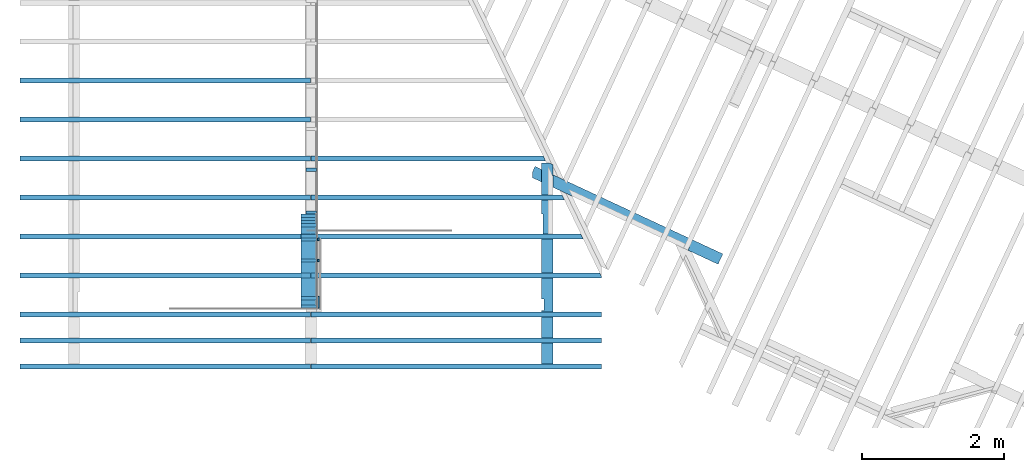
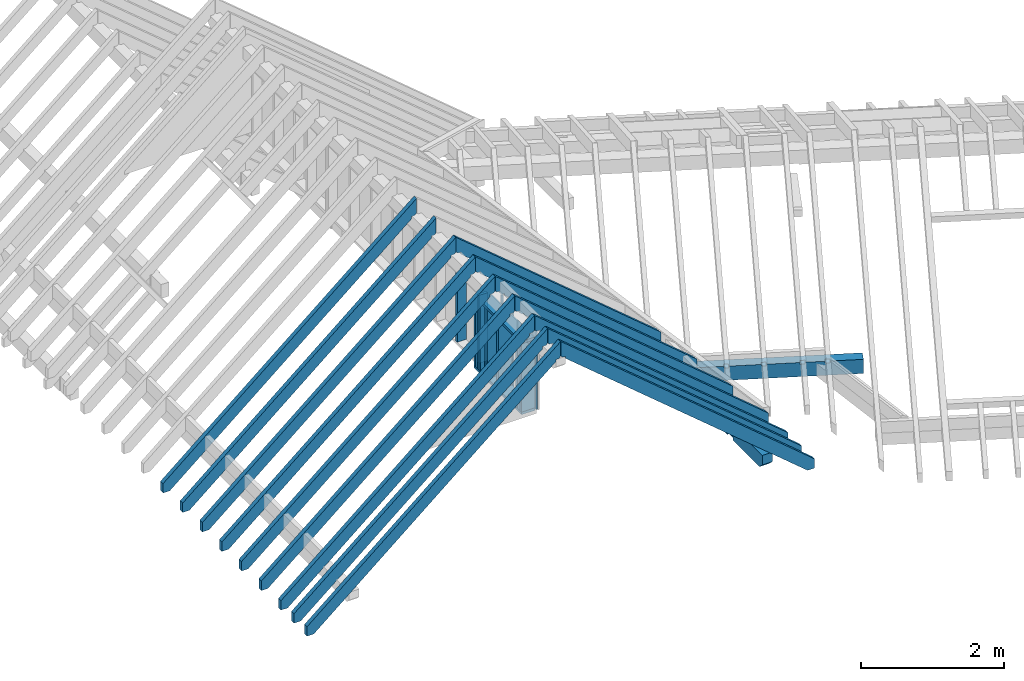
# One storey, part 1 of 11: 35 members.
"""IFC2X3 building model written with IfcOpenShell, lengths in metres."""

from ifc_helpers import new_model, si_unit, direction, frame, origin_with_axes, place, context, subcontext, project, spatial, faceted_brep, material, element, save


model = new_model("IFC2X3")

# Units and contexts
model_context = context("Model", 3, precision=1e-06, world=origin_with_axes(), true_north=direction((0.0, 1.0, 0.0)))
body_context = subcontext(model_context, "Body", "Model", "MODEL_VIEW")
ifc_project = project(units=[si_unit("LENGTHUNIT", "METRE"), si_unit("AREAUNIT", "SQUARE_METRE"), si_unit("VOLUMEUNIT", "CUBIC_METRE"), si_unit("PLANEANGLEUNIT", "RADIAN")], contexts=[model_context])

# Site, building, storey
site_placement = place(None, origin_with_axes())
site = spatial("IfcSite", under=ifc_project, at=site_placement, CompositionType="ELEMENT")
building_placement = place(site_placement, origin_with_axes())
building = spatial("IfcBuilding", under=site, at=building_placement, Name="Building 1", CompositionType="ELEMENT")
storey_placement = place(building_placement, origin_with_axes())
storey = spatial("IfcBuildingStorey", under=building, at=storey_placement, Name="Comble et couverture", CompositionType="ELEMENT", Elevation=0.0)

# Members
ifc_material_1 = material(Name="Epicéa C24")
member_1_placement = place(storey_placement, frame((3.326, 0.012, 6.8079713), z_axis=(-1.0, 0.0, 0.0), x_axis=(0.0, 1.0, 0.0)))
element("IfcMember", 1, at=member_1_placement, inside=storey, material=ifc_material_1, Name="Montant", context=body_context, shape_type="Brep", body=[
    faceted_brep([(1.3208281, -0.0225, -0.11), (0.0, -0.0225, -0.11), (0.0, 0.0225, -0.11), (1.3208281, 0.0225, -0.11), (1.3208281, 0.0225, 0.11), (1.3208281, -0.0225, 0.11), (0.0, -0.0225, 0.11), (0.0, 0.0225, 0.11)], [[[0, 1, 2, 3]], [[3, 4, 5, 0]], [[6, 1, 0, 5]], [[2, 7, 4, 3]], [[7, 6, 5, 4]], [[2, 1, 6, 7]]]),
])
ifc_material_2 = material(Name="NH II")
member_2_placement = place(storey_placement, frame((3.4131263, -0.8118749, 7.2275995), z_axis=(-0.6427876, 0.0, 0.7660444), x_axis=(-0.7660444, 0.0, -0.6427876)))
element("IfcMember", 2, at=member_2_placement, inside=storey, material=ifc_material_2, Name="Chevron", context=body_context, shape_type="Brep", body=[
    faceted_brep([(5.4354375, -0.035, -0.0265671), (5.4354375, 0.035, -0.0265671), (5.3325915, 0.035, 0.096), (5.3325915, -0.035, 0.096), (5.3526906, 0.035, -0.096), (0.2622762, 0.035, -0.096), (0.2397786, 0.035, -0.0691884), (0.2078259, 0.035, -0.096), (0.1611071, 0.035, -0.096), (0.0, 0.035, 0.096), (5.3526906, -0.035, -0.096), (0.2622762, -0.035, -0.096), (0.0, -0.035, 0.096), (0.1611071, -0.035, -0.096), (0.2078259, -0.035, -0.096), (0.2397786, -0.035, -0.0691884)], [[[0, 1, 2, 3]], [[2, 1, 4, 5, 6, 7, 8, 9]], [[1, 0, 10, 4]], [[4, 10, 11, 5]], [[0, 3, 12, 13, 14, 15, 11, 10]], [[3, 2, 9, 12]], [[7, 6, 15, 14]], [[6, 5, 11, 15]], [[7, 14, 13, 8]], [[13, 12, 9, 8]]]),
])
member_3_placement = place(storey_placement, frame((3.326, 1.3103281, 6.7854713), z_axis=(-1.0, 0.0, 0.0), x_axis=(0.0, 0.0, -1.0)))
element("IfcMember", 3, at=member_3_placement, inside=storey, material=ifc_material_1, Name="Montant", context=body_context, shape_type="Brep", body=[
    faceted_brep([(1.16, -0.0225, -0.11), (1.16, -0.0225, 0.11), (0.0, -0.0225, 0.11), (0.0, -0.0225, -0.11), (1.16, 0.0225, 0.11), (0.0, 0.0225, 0.11), (1.16, 0.0225, -0.11), (0.0, 0.0225, -0.11)], [[[0, 1, 2, 3]], [[1, 4, 5, 2]], [[4, 6, 7, 5]], [[6, 0, 3, 7]], [[0, 6, 4, 1]], [[2, 5, 7, 3]]]),
])
member_4_placement = place(storey_placement, frame((3.461, 0.0945, 6.9523725), z_axis=(1.0, 0.0, 0.0), x_axis=(0.0, 0.0, -1.0)))
element("IfcMember", 4, at=member_4_placement, inside=storey, material=ifc_material_1, Name="latte 27/40", context=body_context, shape_type="Brep", body=[
    faceted_brep([(1.3669012, 0.0825, -0.012), (1.3669012, 0.0825, 0.012), (1.3669012, -0.0825, 0.012), (1.3669012, -0.0825, -0.012), (0.0, 0.0825, 0.012), (0.0, 0.0825, -0.012), (0.0, -0.0825, -0.012), (0.0, -0.0825, 0.012)], [[[0, 1, 2, 3]], [[4, 5, 6, 7]], [[3, 6, 5, 0]], [[2, 7, 6, 3]], [[1, 4, 7, 2]], [[0, 5, 4, 1]]]),
])
member_5_placement = place(storey_placement, frame((3.294711, -0.082, 7.2275995), z_axis=(0.6427876, 0.0, 0.7660444), x_axis=(0.7660444, 0.0, -0.6427876)))
element("IfcMember", 5, at=member_5_placement, inside=storey, material=ifc_material_2, Name="Chevron", context=body_context, shape_type="Brep", body=[
    faceted_brep([(5.4354751, 0.035, -0.0266108), (5.4354751, -0.035, -0.0266108), (5.3527803, -0.035, -0.096), (5.3527803, 0.035, -0.096), (5.3325915, -0.035, 0.096), (0.0, -0.035, 0.096), (0.1611071, -0.035, -0.096), (0.2078259, -0.035, -0.096), (0.2397786, -0.035, -0.0691884), (0.2622762, -0.035, -0.096), (5.3325915, 0.035, 0.096), (0.2622762, 0.035, -0.096), (0.2397786, 0.035, -0.0691884), (0.2078259, 0.035, -0.096), (0.1611071, 0.035, -0.096), (0.0, 0.035, 0.096)], [[[0, 1, 2, 3]], [[2, 1, 4, 5, 6, 7, 8, 9]], [[1, 0, 10, 4]], [[0, 3, 11, 12, 13, 14, 15, 10]], [[3, 2, 9, 11]], [[4, 10, 15, 5]], [[13, 12, 8, 7]], [[12, 11, 9, 8]], [[13, 7, 6, 14]], [[15, 14, 6, 5]]]),
])
member_6_placement = place(storey_placement, frame((3.326, 1.2653281, 6.7854713), z_axis=(-1.0, 0.0, 0.0), x_axis=(0.0, 0.0, -1.0)))
element("IfcMember", 6, at=member_6_placement, inside=storey, material=ifc_material_1, Name="Montant", context=body_context, shape_type="Brep", body=[
    faceted_brep([(1.16, -0.0225, -0.11), (1.16, -0.0225, 0.11), (0.0, -0.0225, 0.11), (0.0, -0.0225, -0.11), (1.16, 0.0225, 0.11), (0.0, 0.0225, 0.11), (1.16, 0.0225, -0.11), (0.0, 0.0225, -0.11)], [[[0, 1, 2, 3]], [[1, 4, 5, 2]], [[4, 6, 7, 5]], [[6, 0, 3, 7]], [[0, 6, 4, 1]], [[2, 5, 7, 3]]]),
])
member_7_placement = place(storey_placement, frame((3.4131263, -0.4469374, 7.2275995), z_axis=(-0.6427876, 0.0, 0.7660444), x_axis=(-0.7660444, 0.0, -0.6427876)))
element("IfcMember", 7, at=member_7_placement, inside=storey, material=ifc_material_2, Name="Chevron", context=body_context, shape_type="Brep", body=[
    faceted_brep([(5.4354375, -0.035, -0.0265671), (5.4354375, 0.035, -0.0265671), (5.3325915, 0.035, 0.096), (5.3325915, -0.035, 0.096), (5.3526906, 0.035, -0.096), (0.2622762, 0.035, -0.096), (0.2397786, 0.035, -0.0691884), (0.2078259, 0.035, -0.096), (0.1611071, 0.035, -0.096), (0.0, 0.035, 0.096), (5.3526906, -0.035, -0.096), (0.2622762, -0.035, -0.096), (0.0, -0.035, 0.096), (0.1611071, -0.035, -0.096), (0.2078259, -0.035, -0.096), (0.2397786, -0.035, -0.0691884)], [[[0, 1, 2, 3]], [[2, 1, 4, 5, 6, 7, 8, 9]], [[1, 0, 10, 4]], [[4, 10, 11, 5]], [[0, 3, 12, 13, 14, 15, 11, 10]], [[3, 2, 9, 12]], [[7, 6, 15, 14]], [[6, 5, 11, 15]], [[7, 14, 13, 8]], [[13, 12, 9, 8]]]),
])
member_8_placement = place(storey_placement, frame((3.294711, 1.5664234, 7.2275995), z_axis=(0.6427876, 0.0, 0.7660444), x_axis=(0.7660444, 0.0, -0.6427876)))
element("IfcMember", 8, at=member_8_placement, inside=storey, material=ifc_material_2, Name="Chevron", context=body_context, shape_type="Brep", body=[
    faceted_brep([(0.2078259, 0.035, -0.096), (0.2397786, 0.035, -0.0691884), (0.2397786, -0.035, -0.0691884), (0.2078259, -0.035, -0.096), (0.2622762, 0.035, -0.096), (0.2622762, -0.035, -0.096), (4.8163657, -0.035, -0.096), (4.6552586, -0.035, 0.096), (0.0, -0.035, 0.096), (0.1611071, -0.035, -0.096), (4.7722193, 0.035, -0.096), (0.1611071, 0.035, -0.096), (4.6111121, 0.035, 0.096), (0.0, 0.035, 0.096)], [[[0, 1, 2, 3]], [[1, 4, 5, 2]], [[3, 2, 5, 6, 7, 8, 9]], [[5, 4, 10, 6]], [[0, 3, 9, 11]], [[10, 12, 7, 6]], [[7, 12, 13, 8]], [[1, 0, 11, 13, 12, 10, 4]], [[8, 13, 11, 9]]]),
])
for number, where, z_axis, x_axis, name in (
    (9, (3.326, 0.6795, 6.7854713), (1.0, 0.0, 0.0), (0.0, 0.0, -1.0), "Montant"),
    (10, (3.326, 0.1495, 6.7854713), (1.0, 0.0, 0.0), (0.0, 0.0, -1.0), "Montant"),
):
    element("IfcMember", number, at=place(storey_placement, frame(where, z_axis=z_axis, x_axis=x_axis)), inside=storey, material=ifc_material_1, Name=name, context=body_context, shape_type="Brep", body=[
        faceted_brep([(1.16, -0.0225, -0.11), (1.16, -0.0225, 0.11), (0.0, -0.0225, 0.11), (0.0, -0.0225, -0.11), (1.16, 0.0225, 0.11), (0.0, 0.0225, 0.11), (1.16, 0.0225, -0.11), (0.0, 0.0225, -0.11)], [[[0, 1, 2, 3]], [[1, 4, 5, 2]], [[4, 6, 7, 5]], [[6, 0, 3, 7]], [[0, 6, 4, 1]], [[2, 5, 7, 3]]]),
    ])
for number, where, z_axis, x_axis, name in (
    (11, (3.294711, -0.8118749, 7.2275995), (0.6427876, 0.0, 0.7660444), (0.7660444, 0.0, -0.6427876), "Chevron"),
    (12, (3.294711, -0.4469374, 7.2275995), (0.6427876, 0.0, 0.7660444), (0.7660444, 0.0, -0.6427876), "Chevron"),
):
    element("IfcMember", number, at=place(storey_placement, frame(where, z_axis=z_axis, x_axis=x_axis)), inside=storey, material=ifc_material_2, Name=name, context=body_context, shape_type="Brep", body=[
        faceted_brep([(5.4354751, 0.035, -0.0266108), (5.4354751, -0.035, -0.0266108), (5.3527803, -0.035, -0.096), (5.3527803, 0.035, -0.096), (5.3325915, -0.035, 0.096), (0.0, -0.035, 0.096), (0.1611071, -0.035, -0.096), (0.2078259, -0.035, -0.096), (0.2397786, -0.035, -0.0691884), (0.2622762, -0.035, -0.096), (5.3325915, 0.035, 0.096), (0.2622762, 0.035, -0.096), (0.2397786, 0.035, -0.0691884), (0.2078259, 0.035, -0.096), (0.1611071, 0.035, -0.096), (0.0, 0.035, 0.096)], [[[0, 1, 2, 3]], [[2, 1, 4, 5, 6, 7, 8, 9]], [[1, 0, 10, 4]], [[0, 3, 11, 12, 13, 14, 15, 10]], [[3, 2, 9, 11]], [[4, 10, 15, 5]], [[13, 12, 8, 7]], [[12, 11, 9, 8]], [[13, 7, 6, 14]], [[15, 14, 6, 5]]]),
    ])
for number, where, z_axis, x_axis, name in (
    (13, (3.4131263, 1.5664234, 7.2275995), (-0.6427876, 0.0, 0.7660444), (-0.7660444, 0.0, -0.6427876), "Chevron"),
    (14, (3.4131263, 0.4684141, 7.2275995), (-0.6427876, 0.0, 0.7660444), (-0.7660444, 0.0, -0.6427876), "Chevron"),
):
    element("IfcMember", number, at=place(storey_placement, frame(where, z_axis=z_axis, x_axis=x_axis)), inside=storey, material=ifc_material_2, Name=name, context=body_context, shape_type="Brep", body=[
        faceted_brep([(5.4354375, -0.035, -0.0265671), (5.4354375, 0.035, -0.0265671), (5.3325915, 0.035, 0.096), (5.3325915, -0.035, 0.096), (5.3526906, 0.035, -0.096), (0.2622762, 0.035, -0.096), (0.2397786, 0.035, -0.0691884), (0.2078259, 0.035, -0.096), (0.1611071, 0.035, -0.096), (0.0, 0.035, 0.096), (5.3526906, -0.035, -0.096), (0.2622762, -0.035, -0.096), (0.0, -0.035, 0.096), (0.1611071, -0.035, -0.096), (0.2078259, -0.035, -0.096), (0.2397786, -0.035, -0.0691884)], [[[0, 1, 2, 3]], [[2, 1, 4, 5, 6, 7, 8, 9]], [[1, 0, 10, 4]], [[4, 10, 11, 5]], [[0, 3, 12, 13, 14, 15, 11, 10]], [[3, 2, 9, 12]], [[7, 6, 15, 14]], [[6, 5, 11, 15]], [[7, 14, 13, 8]], [[13, 12, 9, 8]]]),
    ])
member_9_placement = place(storey_placement, frame((3.461, 0.9758281, 6.9523725), z_axis=(-1.0, 0.0, 0.0), x_axis=(0.0, 0.0, -1.0)))
element("IfcMember", 15, at=member_9_placement, inside=storey, material=ifc_material_1, Name="latte 27/40", context=body_context, shape_type="Brep", body=[
    faceted_brep([(1.3669012, -0.02, -0.012), (1.3669012, 0.02, -0.012), (1.3669012, 0.02, 0.012), (1.3669012, -0.02, 0.012), (0.0, 0.02, 0.012), (0.0, -0.02, 0.012), (0.0, 0.02, -0.012), (0.0, -0.02, -0.012)], [[[0, 1, 2, 3]], [[3, 2, 4, 5]], [[2, 1, 6, 4]], [[1, 0, 7, 6]], [[6, 7, 5, 4]], [[0, 3, 5, 7]]]),
])
member_10_placement = place(storey_placement, frame((3.4131263, 3.2092093, 7.2275995), z_axis=(-0.6427876, 0.0, 0.7660444), x_axis=(-0.7660444, 0.0, -0.6427876)))
element("IfcMember", 16, at=member_10_placement, inside=storey, material=ifc_material_2, Name="Chevron", context=body_context, shape_type="Brep", body=[
    faceted_brep([(5.4354375, -0.035, -0.0265671), (5.4354375, 0.035, -0.0265671), (5.3325915, 0.035, 0.096), (5.3325915, -0.035, 0.096), (5.3526906, 0.035, -0.096), (0.2622762, 0.035, -0.096), (0.2397786, 0.035, -0.0691884), (0.2078259, 0.035, -0.096), (0.1611071, 0.035, -0.096), (0.0, 0.035, 0.096), (5.3526906, -0.035, -0.096), (0.2622762, -0.035, -0.096), (0.0, -0.035, 0.096), (0.1611071, -0.035, -0.096), (0.2078259, -0.035, -0.096), (0.2397786, -0.035, -0.0691884)], [[[0, 1, 2, 3]], [[2, 1, 4, 5, 6, 7, 8, 9]], [[1, 0, 10, 4]], [[4, 10, 11, 5]], [[0, 3, 12, 13, 14, 15, 11, 10]], [[3, 2, 9, 12]], [[7, 6, 15, 14]], [[6, 5, 11, 15]], [[7, 14, 13, 8]], [[13, 12, 9, 8]]]),
])
member_11_placement = place(storey_placement, frame((3.294711, 1.0188281, 7.2275995), z_axis=(0.6427876, 0.0, 0.7660444), x_axis=(0.7660444, 0.0, -0.6427876)))
element("IfcMember", 17, at=member_11_placement, inside=storey, material=ifc_material_2, Name="Chevron", context=body_context, shape_type="Brep", body=[
    faceted_brep([(0.3059901, 0.035, -0.096), (0.3339608, 0.035, -0.0725298), (0.3339608, -0.035, -0.0725298), (0.3059901, -0.035, -0.096), (0.3536547, 0.035, -0.096), (0.3536547, -0.035, -0.096), (5.1617139, -0.035, -0.096), (5.0006068, -0.035, 0.096), (0.0, -0.035, 0.096), (0.1611071, -0.035, -0.096), (0.2078259, -0.035, -0.096), (0.2397786, -0.035, -0.0691884), (0.2622762, -0.035, -0.096), (5.1175675, 0.035, -0.096), (0.2622762, 0.035, -0.096), (0.2078259, 0.035, -0.096), (0.2397786, 0.035, -0.0691884), (0.1611071, 0.035, -0.096), (0.0, 0.035, 0.096), (4.9564604, 0.035, 0.096)], [[[0, 1, 2, 3]], [[1, 4, 5, 2]], [[3, 2, 5, 6, 7, 8, 9, 10, 11, 12]], [[5, 4, 13, 6]], [[0, 3, 12, 14]], [[15, 16, 11, 10]], [[16, 14, 12, 11]], [[15, 10, 9, 17]], [[8, 18, 17, 9]], [[1, 0, 14, 16, 15, 17, 18, 19, 13, 4]], [[18, 8, 7, 19]], [[13, 19, 7, 6]]]),
])
for number, where, z_axis, x_axis, name in (
    (18, (3.3635, 1.3553281, 6.7854713), (1.0, 0.0, 0.0), (0.0, 0.0, -1.0), "Montant"),
    (19, (3.3635, 1.9553281, 6.7854713), (1.0, 0.0, 0.0), (0.0, 0.0, -1.0), "Montant"),
):
    element("IfcMember", number, at=place(storey_placement, frame(where, z_axis=z_axis, x_axis=x_axis)), inside=storey, material=ifc_material_1, Name=name, context=body_context, shape_type="Brep", body=[
        faceted_brep([(1.16, -0.0225, -0.0725), (1.16, 0.0225, -0.0725), (1.16, 0.0225, 0.0725), (1.16, -0.0225, 0.0725), (0.0, 0.0225, -0.0725), (0.0, 0.0225, 0.0725), (0.0, -0.0225, -0.0725), (0.0, -0.0225, 0.0725)], [[[0, 1, 2, 3]], [[2, 1, 4, 5]], [[1, 0, 6, 4]], [[0, 3, 7, 6]], [[3, 2, 5, 7]], [[7, 5, 4, 6]]]),
    ])
member_12_placement = place(storey_placement, frame((3.326, 0.0345, 6.7854713), z_axis=(1.0, 0.0, 0.0), x_axis=(0.0, 0.0, -1.0)))
element("IfcMember", 20, at=member_12_placement, inside=storey, material=ifc_material_1, Name="Montant", context=body_context, shape_type="Brep", body=[
    faceted_brep([(1.16, -0.0225, -0.11), (1.16, -0.0225, 0.11), (0.0, -0.0225, 0.11), (0.0, -0.0225, -0.11), (1.16, 0.0225, 0.11), (0.0, 0.0225, 0.11), (1.16, 0.0225, -0.11), (0.0, 0.0225, -0.11)], [[[0, 1, 2, 3]], [[1, 4, 5, 2]], [[4, 6, 7, 5]], [[6, 0, 3, 7]], [[0, 6, 4, 1]], [[2, 5, 7, 3]]]),
])
member_13_placement = place(storey_placement, frame((3.294711, 0.4684141, 7.2275995), z_axis=(0.6427876, 0.0, 0.7660444), x_axis=(0.7660444, 0.0, -0.6427876)))
element("IfcMember", 21, at=member_13_placement, inside=storey, material=ifc_material_2, Name="Chevron", context=body_context, shape_type="Brep", body=[
    faceted_brep([(0.3059901, 0.035, -0.096), (0.3339608, 0.035, -0.0725298), (0.3339608, -0.035, -0.0725298), (0.3059901, -0.035, -0.096), (0.3536547, 0.035, -0.096), (0.3536547, -0.035, -0.096), (5.3527803, -0.035, -0.096), (5.4354751, -0.035, -0.0266108), (5.3325915, -0.035, 0.096), (0.0, -0.035, 0.096), (0.1611071, -0.035, -0.096), (0.2078259, -0.035, -0.096), (0.2397786, -0.035, -0.0691884), (0.2622762, -0.035, -0.096), (5.3527803, 0.035, -0.096), (0.2622762, 0.035, -0.096), (5.4354751, -0.010993, -0.0266108), (5.4184536, 0.035, -0.0408935), (5.3035863, 0.035, 0.096), (5.3325924, -0.010993, 0.096), (0.2397786, 0.035, -0.0691884), (0.2078259, 0.035, -0.096), (0.1611071, 0.035, -0.096), (0.0, 0.035, 0.096)], [[[0, 1, 2, 3]], [[1, 4, 5, 2]], [[3, 2, 5, 6, 7, 8, 9, 10, 11, 12, 13]], [[5, 4, 14, 6]], [[0, 3, 13, 15]], [[16, 17, 18, 19]], [[1, 0, 15, 20, 21, 22, 23, 18, 17, 14, 4]], [[17, 16, 7, 6, 14]], [[16, 19, 8, 7]], [[19, 18, 23, 9, 8]], [[21, 20, 12, 11]], [[20, 15, 13, 12]], [[21, 11, 10, 22]], [[10, 9, 23, 22]]]),
])
member_14_placement = place(storey_placement, frame((3.4131263, 2.661614, 7.2275995), z_axis=(-0.6427876, 0.0, 0.7660444), x_axis=(-0.7660444, 0.0, -0.6427876)))
element("IfcMember", 22, at=member_14_placement, inside=storey, material=ifc_material_2, Name="Chevron", context=body_context, shape_type="Brep", body=[
    faceted_brep([(5.4354375, -0.035, -0.0265671), (5.4354375, 0.035, -0.0265671), (5.3325915, 0.035, 0.096), (5.3325915, -0.035, 0.096), (5.3526906, 0.035, -0.096), (0.2622762, 0.035, -0.096), (0.2397786, 0.035, -0.0691884), (0.2078259, 0.035, -0.096), (0.1611071, 0.035, -0.096), (0.0, 0.035, 0.096), (5.3526906, -0.035, -0.096), (0.2622762, -0.035, -0.096), (0.0, -0.035, 0.096), (0.1611071, -0.035, -0.096), (0.2078259, -0.035, -0.096), (0.2397786, -0.035, -0.0691884)], [[[0, 1, 2, 3]], [[2, 1, 4, 5, 6, 7, 8, 9]], [[1, 0, 10, 4]], [[4, 10, 11, 5]], [[0, 3, 12, 13, 14, 15, 11, 10]], [[3, 2, 9, 12]], [[7, 6, 15, 14]], [[6, 5, 11, 15]], [[7, 14, 13, 8]], [[13, 12, 9, 8]]]),
])
for number, where, z_axis, x_axis, name in (
    (23, (3.326, 0.9758281, 6.7854713), (-1.0, 0.0, 0.0), (0.0, 0.0, -1.0), "Montant"),
    (24, (3.326, 1.0208281, 6.7854713), (-1.0, 0.0, 0.0), (0.0, 0.0, -1.0), "Montant"),
):
    element("IfcMember", number, at=place(storey_placement, frame(where, z_axis=z_axis, x_axis=x_axis)), inside=storey, material=ifc_material_1, Name=name, context=body_context, shape_type="Brep", body=[
        faceted_brep([(1.16, -0.0225, -0.11), (1.16, -0.0225, 0.11), (0.0, -0.0225, 0.11), (0.0, -0.0225, -0.11), (1.16, 0.0225, 0.11), (0.0, 0.0225, 0.11), (1.16, 0.0225, -0.11), (0.0, 0.0225, -0.11)], [[[0, 1, 2, 3]], [[1, 4, 5, 2]], [[4, 6, 7, 5]], [[6, 0, 3, 7]], [[0, 6, 4, 1]], [[2, 5, 7, 3]]]),
    ])
member_15_placement = place(storey_placement, frame((3.326, 0.012, 5.6029713), z_axis=(-1.0, 0.0, 0.0), x_axis=(0.0, 1.0, 0.0)))
element("IfcMember", 25, at=member_15_placement, inside=storey, material=ifc_material_1, Name="Montant", context=body_context, shape_type="Brep", body=[
    faceted_brep([(1.3208281, -0.0225, -0.11), (0.0, -0.0225, -0.11), (0.0, 0.0225, -0.11), (1.3208281, 0.0225, -0.11), (1.3208281, 0.0225, 0.11), (1.3208281, -0.0225, 0.11), (0.0, -0.0225, 0.11), (0.0, 0.0225, 0.11)], [[[0, 1, 2, 3]], [[3, 4, 5, 0]], [[6, 1, 0, 5]], [[2, 7, 4, 3]], [[7, 6, 5, 4]], [[2, 1, 6, 7]]]),
])
member_16_placement = place(storey_placement, frame((3.461, 0.6795, 6.9523725), z_axis=(1.0, 0.0, 0.0), x_axis=(0.0, 0.0, -1.0)))
element("IfcMember", 26, at=member_16_placement, inside=storey, material=ifc_material_1, Name="latte 27/40", context=body_context, shape_type="Brep", body=[
    faceted_brep([(1.3669012, 0.02, 0.012), (1.3669012, -0.02, 0.012), (1.3669012, -0.02, -0.012), (1.3669012, 0.02, -0.012), (0.0, -0.02, -0.012), (0.0, 0.02, -0.012), (0.0, -0.02, 0.012), (0.0, 0.02, 0.012)], [[[0, 1, 2, 3]], [[3, 2, 4, 5]], [[2, 1, 6, 4]], [[1, 0, 7, 6]], [[0, 3, 5, 7]], [[6, 7, 5, 4]]]),
])
member_17_placement = place(storey_placement, frame((3.326, 0.092, 6.7854713), z_axis=(1.0, 0.0, 0.0), x_axis=(0.0, 0.0, -1.0)))
element("IfcMember", 27, at=member_17_placement, inside=storey, material=ifc_material_1, Name="Montant", context=body_context, shape_type="Brep", body=[
    faceted_brep([(1.16, 0.035, -0.11), (1.16, 0.035, 0.11), (1.16, -0.035, 0.11), (1.16, -0.035, -0.11), (0.0, 0.035, 0.11), (0.0, 0.035, -0.11), (0.0, -0.035, -0.11), (0.0, -0.035, 0.11)], [[[0, 1, 2, 3]], [[4, 5, 6, 7]], [[3, 6, 5, 0]], [[2, 7, 6, 3]], [[1, 4, 7, 2]], [[0, 5, 4, 1]]]),
])
for number, where, z_axis, x_axis, name in (
    (28, (3.4131263, 1.0188281, 7.2275995), (-0.6427876, 0.0, 0.7660444), (-0.7660444, 0.0, -0.6427876), "Chevron"),
    (29, (3.4131263, -0.082, 7.2275995), (-0.6427876, 0.0, 0.7660444), (-0.7660444, 0.0, -0.6427876), "Chevron"),
    (30, (3.4131263, 2.1140187, 7.2275995), (-0.6427876, 0.0, 0.7660444), (-0.7660444, 0.0, -0.6427876), "Chevron"),
):
    element("IfcMember", number, at=place(storey_placement, frame(where, z_axis=z_axis, x_axis=x_axis)), inside=storey, material=ifc_material_2, Name=name, context=body_context, shape_type="Brep", body=[
        faceted_brep([(5.4354375, -0.035, -0.0265671), (5.4354375, 0.035, -0.0265671), (5.3325915, 0.035, 0.096), (5.3325915, -0.035, 0.096), (5.3526906, 0.035, -0.096), (0.2622762, 0.035, -0.096), (0.2397786, 0.035, -0.0691884), (0.2078259, 0.035, -0.096), (0.1611071, 0.035, -0.096), (0.0, 0.035, 0.096), (5.3526906, -0.035, -0.096), (0.2622762, -0.035, -0.096), (0.0, -0.035, 0.096), (0.1611071, -0.035, -0.096), (0.2078259, -0.035, -0.096), (0.2397786, -0.035, -0.0691884)], [[[0, 1, 2, 3]], [[2, 1, 4, 5, 6, 7, 8, 9]], [[1, 0, 10, 4]], [[4, 10, 11, 5]], [[0, 3, 12, 13, 14, 15, 11, 10]], [[3, 2, 9, 12]], [[7, 6, 15, 14]], [[6, 5, 11, 15]], [[7, 14, 13, 8]], [[13, 12, 9, 8]]]),
    ])
member_18_placement = place(storey_placement, frame((3.294711, 2.1140187, 7.2275995), z_axis=(0.6427876, 0.0, 0.7660444), x_axis=(0.7660444, 0.0, -0.6427876)))
element("IfcMember", 31, at=member_18_placement, inside=storey, material=ifc_material_2, Name="Chevron", context=body_context, shape_type="Brep", body=[
    faceted_brep([(0.2078259, 0.035, -0.096), (0.2397786, 0.035, -0.0691884), (0.2397786, -0.035, -0.0691884), (0.2078259, -0.035, -0.096), (0.2622762, 0.035, -0.096), (0.2622762, -0.035, -0.096), (4.4710175, -0.035, -0.096), (4.3099103, -0.035, 0.096), (0.0, -0.035, 0.096), (0.1611071, -0.035, -0.096), (4.426871, 0.035, -0.096), (0.1611071, 0.035, -0.096), (4.2657639, 0.035, 0.096), (0.0, 0.035, 0.096)], [[[0, 1, 2, 3]], [[1, 4, 5, 2]], [[3, 2, 5, 6, 7, 8, 9]], [[5, 4, 10, 6]], [[0, 3, 9, 11]], [[10, 12, 7, 6]], [[7, 12, 13, 8]], [[1, 0, 11, 13, 12, 10, 4]], [[8, 13, 11, 9]]]),
])
for number, where, z_axis, x_axis, name in (
    (32, (3.326, 1.1753281, 6.7854713), (-1.0, 0.0, 0.0), (0.0, 0.0, -1.0), "Montant"),
    (33, (3.326, 1.2203281, 6.7854713), (-1.0, 0.0, 0.0), (0.0, 0.0, -1.0), "Montant"),
):
    element("IfcMember", number, at=place(storey_placement, frame(where, z_axis=z_axis, x_axis=x_axis)), inside=storey, material=ifc_material_1, Name=name, context=body_context, shape_type="Brep", body=[
        faceted_brep([(1.16, -0.0225, -0.11), (1.16, -0.0225, 0.11), (0.0, -0.0225, 0.11), (0.0, -0.0225, -0.11), (1.16, 0.0225, 0.11), (0.0, 0.0225, 0.11), (1.16, 0.0225, -0.11), (0.0, 0.0225, -0.11)], [[[0, 1, 2, 3]], [[1, 4, 5, 2]], [[4, 6, 7, 5]], [[6, 0, 3, 7]], [[0, 6, 4, 1]], [[2, 5, 7, 3]]]),
    ])
member_19_placement = place(storey_placement, frame((6.683, -0.8468749, 4.1028151), z_axis=(0.0, 0.0, 1.0), x_axis=(0.0, 1.0, 0.0)))
element("IfcMember", 34, at=member_19_placement, inside=storey, material=ifc_material_2, Name="Panne", context=body_context, shape_type="Brep", body=[
    faceted_brep([(2.5559602, -0.08, -0.12), (0.08, -0.08, -0.12), (0.08, 0.08, -0.12), (0.8228749, 0.08, -0.12), (0.8228749, 0.05, -0.12), (0.9828749, 0.05, -0.12), (0.9828749, 0.08, -0.12), (1.901703, 0.08, -0.12), (1.901703, 0.06, -0.12), (2.181703, 0.06, -0.12), (2.181703, 0.08, -0.12), (2.6305694, 0.08, -0.12), (0.8228749, 0.08, 0.12), (0.8228749, 0.05, 0.12), (0.9828749, 0.08, 0.12), (0.9828749, 0.05, 0.12), (1.901703, 0.06, 0.12), (2.181703, 0.06, 0.12), (0.4349374, -0.0433241, 0.12), (0.3649374, -0.0433241, 0.12), (0.3649374, -0.08, 0.0892253), (0.4349374, -0.08, 0.0892253), (0.3649374, -0.08, 0.12), (0.4349374, -0.08, 0.12), (0.0, 0.08, -0.04), (0.0, -0.08, -0.04), (0.0, -0.08, 0.0892253), (0.0, -0.0433241, 0.12), (0.0, 0.08, 0.12), (0.07, -0.0433241, 0.12), (0.07, -0.08, 0.0892253), (0.07, -0.08, 0.12), (2.6305694, 0.08, -0.0620872), (2.5559602, -0.08, -0.0620872), (2.8071099, 0.08, -0.0620872), (2.7325006, -0.08, -0.0620872), (2.8071099, 0.08, -0.12), (2.7325006, -0.08, -0.12), (2.181703, 0.08, 0.12), (2.8983492, 0.08, 0.12), (2.8983492, 0.08, -0.12), (0.7298749, -0.08, 0.12), (2.8726296, -0.08, -0.12), (2.8726296, -0.08, 0.12), (2.4482983, -0.08, 0.12), (2.4482983, -0.08, 0.0892253), (2.3782983, -0.08, 0.0892253), (2.3782983, -0.08, 0.12), (1.900703, -0.08, 0.12), (1.900703, -0.08, 0.0892253), (1.830703, -0.08, 0.0892253), (1.830703, -0.08, 0.12), (1.3502889, -0.08, 0.12), (1.3502889, -0.08, 0.0892253), (1.2802889, -0.08, 0.0892253), (1.2802889, -0.08, 0.12), (0.7998749, -0.08, 0.12), (0.7998749, -0.08, 0.0892253), (0.7298749, -0.08, 0.0892253), (2.8983492, -0.0248441, -0.12), (2.8983492, -0.0248441, 0.12), (0.7298749, -0.0433241, 0.12), (0.7998749, -0.0433241, 0.12), (1.2802889, -0.0433241, 0.12), (1.3502889, -0.0433241, 0.12), (1.830703, -0.0433241, 0.12), (1.900703, -0.0433241, 0.12), (2.3782983, -0.0433241, 0.12), (2.4482983, -0.0433241, 0.12), (1.901703, 0.08, 0.12)], [[[0, 1, 2, 3, 4, 5, 6, 7, 8, 9, 10, 11]], [[3, 12, 13, 4]], [[14, 6, 5, 15]], [[16, 17, 9, 8]], [[18, 19, 20, 21]], [[19, 22, 20]], [[23, 18, 21]], [[24, 2, 1, 25]], [[24, 25, 26, 27, 28]], [[29, 27, 26, 30]], [[31, 29, 30]], [[11, 32, 33, 0]], [[33, 32, 34, 35]], [[34, 36, 37, 35]], [[36, 34, 32, 11, 10, 38, 39, 40]], [[41, 23, 21, 20, 22, 31, 30, 26, 25, 1, 0, 33, 35, 37, 42, 43, 44, 45, 46, 47, 48, 49, 50, 51, 52, 53, 54, 55, 56, 57, 58]], [[59, 60, 43, 42]], [[12, 28, 27, 29, 31, 22, 19, 18, 23, 41, 61, 62, 56, 55, 63, 64, 52, 51, 65, 66, 48, 47, 67, 68, 44, 43, 60, 39, 38, 17, 16, 69, 14, 15, 13]], [[60, 59, 40, 39]], [[37, 36, 40, 59, 42]], [[69, 16, 8, 7]], [[10, 9, 17, 38]], [[7, 6, 14, 69]], [[15, 5, 4, 13]], [[28, 12, 3, 2, 24]], [[56, 62, 57]], [[61, 41, 58]], [[62, 61, 58, 57]], [[52, 64, 53]], [[63, 55, 54]], [[64, 63, 54, 53]], [[48, 66, 49]], [[65, 51, 50]], [[66, 65, 50, 49]], [[46, 45, 68, 67]], [[47, 46, 67]], [[45, 44, 68]]]),
])
member_20_placement = place(storey_placement, frame((6.476, 1.9311858, 3.9786408), z_axis=(0.0, 0.0, 1.0), x_axis=(0.9063078, -0.4226183, 0.0)))
element("IfcMember", 35, at=member_20_placement, inside=storey, material=ifc_material_2, Name="Panne", context=body_context, shape_type="Brep", body=[
    faceted_brep([(2.9138556, 0.08, -0.062265), (2.9138556, -0.02, -0.12), (2.8638556, 0.08, -0.12), (2.9138556, -0.08, -0.12), (0.3440437, -0.08, -0.12), (0.3385791, -0.0682811, -0.12), (0.3134477, -0.08, -0.12), (0.0373046, -0.08, -0.12), (0.0, 0.0, -0.12), (0.0, 0.08, -0.12), (2.9138556, 0.08, 0.12), (2.9138556, -0.08, 0.12), (0.0, 0.08, 0.12), (0.1028244, 0.08, 0.12), (0.1028244, 0.08, 0.0620872), (0.2793649, 0.08, 0.0620872), (0.2793649, 0.08, 0.12), (2.4476035, -0.08, 0.12), (2.4476035, -0.08, 0.090237), (2.3776035, -0.08, 0.090237), (2.3776035, -0.08, 0.12), (2.0986035, -0.08, 0.12), (2.0986035, -0.08, 0.0902482), (2.0286035, -0.08, 0.0902482), (2.0286035, -0.08, 0.12), (1.5526035, -0.08, 0.12), (1.5526035, -0.08, 0.0903459), (1.4826035, -0.08, 0.0903459), (1.4826035, -0.08, 0.12), (1.0276035, -0.08, 0.12), (1.0276035, -0.08, 0.0903298), (0.9576035, -0.08, 0.0903298), (0.9576035, -0.08, 0.12), (0.3539741, -0.08, 0.12), (0.3539741, -0.08, 0.0620872), (0.3440437, -0.08, 0.0620872), (0.3385791, -0.0682811, 0.0620872), (0.3134477, -0.08, 0.0620872), (0.1774336, -0.08, 0.0620872), (0.1774336, -0.08, 0.12), (0.0373046, -0.08, 0.12), (0.0, 0.0, 0.12), (0.9576035, -0.0286097, 0.12), (1.0276035, -0.0286097, 0.12), (1.4826035, -0.0286377, 0.12), (1.5526035, -0.0286377, 0.12), (2.0286035, -0.0284684, 0.12), (2.0986035, -0.0284684, 0.12), (2.3776035, -0.0284489, 0.12), (2.4476035, -0.0284489, 0.12)], [[[0, 1, 2]], [[2, 1, 3, 4, 5, 6, 7, 8, 9]], [[1, 0, 10, 11, 3]], [[0, 2, 9, 12, 13, 14, 15, 16, 10]], [[3, 11, 17, 18, 19, 20, 21, 22, 23, 24, 25, 26, 27, 28, 29, 30, 31, 32, 33, 34, 35, 4]], [[35, 36, 5, 4]], [[36, 37, 6, 5]], [[6, 37, 38, 39, 40, 7]], [[39, 38, 14, 13]], [[36, 35, 34, 15, 14, 38, 37]], [[34, 33, 16, 15]], [[39, 13, 12, 41, 40]], [[41, 8, 7, 40]], [[8, 41, 12, 9]], [[11, 10, 16, 33, 32, 42, 43, 29, 28, 44, 45, 25, 24, 46, 47, 21, 20, 48, 49, 17]], [[25, 45, 26]], [[44, 28, 27]], [[45, 44, 27, 26]], [[32, 31, 42]], [[31, 30, 43, 42]], [[30, 29, 43]], [[20, 19, 48]], [[19, 18, 49, 48]], [[18, 17, 49]], [[23, 22, 47, 46]], [[24, 23, 46]], [[22, 21, 47]]]),
])

save(model, "model.ifc")
